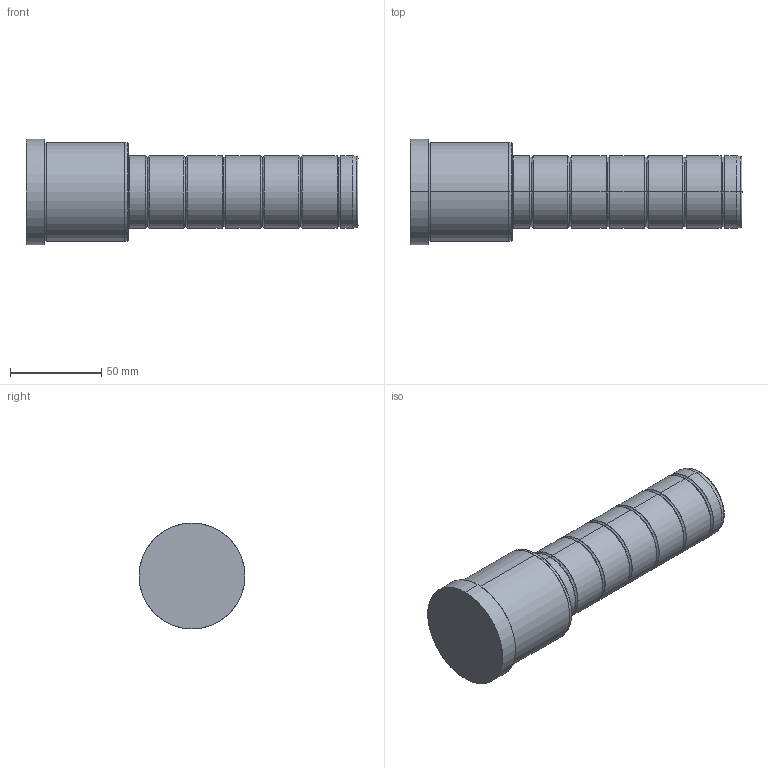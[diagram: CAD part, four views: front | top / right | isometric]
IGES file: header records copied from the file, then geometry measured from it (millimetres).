
Start section: SolidWorks IGES file using analytic representation for surfaces
Global section: file name: C:\Documents and Settings\kalite-mail\Desktop\IGS\D02\40\D02 - 40x56x126.IGS; native system: SolidWorks 2008; preprocessor: SolidWorks 2008; author: kalite-mail; date: 080617.100526; units: millimetre
Bounding box: 182 x 58 x 58 mm (x, y, z)
Surface area: 31337.2 mm2 (no closed solid volume)
Topology: 0 solids, 0 shells, 60 faces, 856 edges, 856 vertices
Faces by surface type: bspline 34, revolution 26
